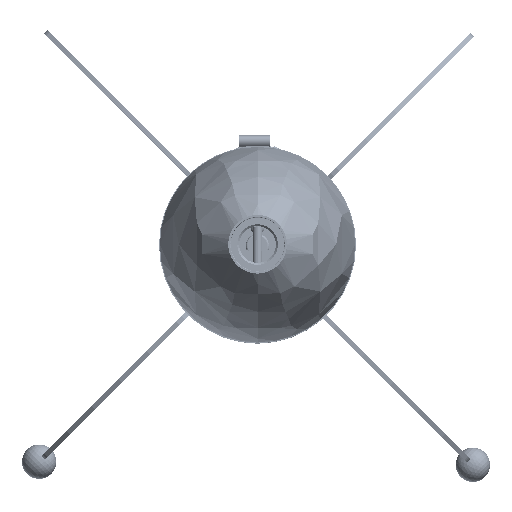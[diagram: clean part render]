
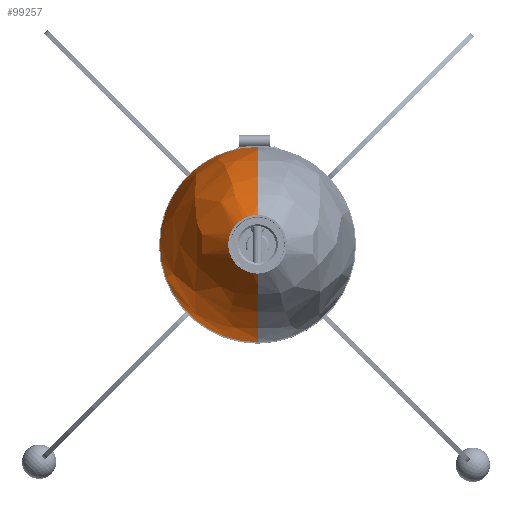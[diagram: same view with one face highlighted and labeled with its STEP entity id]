
A CAD part, top view. The second image highlights one B-rep face of the part: STEP entity #99257.
In plain terms, the highlighted free-form (B-spline) face has degree [2, 3] with [3, 4] control points.
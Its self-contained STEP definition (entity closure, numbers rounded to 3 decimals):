
#420 = EDGE_CURVE ( 'NONE', #83843, #123624, #6204, .T. ) ;
#1627 = AXIS2_PLACEMENT_3D ( 'NONE', #25474, #153951, #43990 ) ;
#3230 = ORIENTED_EDGE ( 'NONE', *, *, #6509, .F. ) ;
#6204 =( BOUNDED_CURVE ( )  B_SPLINE_CURVE ( 2, ( #7951, #155641, #45710 ),
 .UNSPECIFIED., .F., .F. ) 
 B_SPLINE_CURVE_WITH_KNOTS ( ( 3, 3 ),
 ( 0., 1. ),
 .UNSPECIFIED. ) 
 CURVE ( )  GEOMETRIC_REPRESENTATION_ITEM ( )  RATIONAL_B_SPLINE_CURVE ( ( 1., 0.798, 1. ) ) 
 REPRESENTATION_ITEM ( '' )  );
#6509 = EDGE_CURVE ( 'NONE', #45994, #178233, #119484, .T. ) ;
#7951 = CARTESIAN_POINT ( 'NONE',  ( 0., 83.185, 155. ) ) ;
#13855 = CARTESIAN_POINT ( 'NONE',  ( -50., -25., 295. ) ) ;
#21288 = CARTESIAN_POINT ( 'NONE',  ( 0., 0., 295. ) ) ;
#25474 = CARTESIAN_POINT ( 'NONE',  ( 0., 0., 155. ) ) ;
#26059 = CARTESIAN_POINT ( 'NONE',  ( 0., 83.185, 155. ) ) ;
#31584 = CARTESIAN_POINT ( 'NONE',  ( 0., -83.185, 155. ) ) ;
#32377 = CARTESIAN_POINT ( 'NONE',  ( 0., 25., 295. ) ) ;
#38153 = ORIENTED_EDGE ( 'NONE', *, *, #66650, .T. ) ;
#39252 = CARTESIAN_POINT ( 'NONE',  ( 0., 0., 155. ) ) ;
#39772 = DIRECTION ( 'NONE',  ( -1., 0., 0. ) ) ;
#40084 = VERTEX_POINT ( 'NONE', #160410 ) ;
#42323 = EDGE_CURVE ( 'NONE', #178233, #83843, #207950, .T. ) ;
#42783 = EDGE_LOOP ( 'NONE', ( #3230, #236552, #38153, #66848, #54182 ) ) ;
#43990 = DIRECTION ( 'NONE',  ( -1., 0., 0. ) ) ;
#45710 = CARTESIAN_POINT ( 'NONE',  ( 0., 25., 295. ) ) ;
#45851 = EDGE_CURVE ( 'NONE', #45994, #40084, #73799, .T. ) ;
#45994 = VERTEX_POINT ( 'NONE', #207701 ) ;
#50040 = CARTESIAN_POINT ( 'NONE',  ( -166.37, -83.185, 155. ) ) ;
#54182 = ORIENTED_EDGE ( 'NONE', *, *, #42323, .F. ) ;
#57753 = DIRECTION ( 'NONE',  ( -1., 0., 0. ) ) ;
#66650 = EDGE_CURVE ( 'NONE', #40084, #123624, #206099, .T. ) ;
#66848 = ORIENTED_EDGE ( 'NONE', *, *, #420, .F. ) ;
#68491 = CARTESIAN_POINT ( 'NONE',  ( -166.37, 83.185, 155. ) ) ;
#73592 = CARTESIAN_POINT ( 'NONE',  ( 0., -83.185, 155. ) ) ;
#73799 =( BOUNDED_CURVE ( )  B_SPLINE_CURVE ( 2, ( #73592, #183577, #110570 ),
 .UNSPECIFIED., .F., .F. ) 
 B_SPLINE_CURVE_WITH_KNOTS ( ( 3, 3 ),
 ( 0., 1. ),
 .UNSPECIFIED. ) 
 CURVE ( )  GEOMETRIC_REPRESENTATION_ITEM ( )  RATIONAL_B_SPLINE_CURVE ( ( 1., 0.798, 1. ) ) 
 REPRESENTATION_ITEM ( '' )  );
#83843 = VERTEX_POINT ( 'NONE', #26059 ) ;
#86994 = CARTESIAN_POINT ( 'NONE',  ( 0., -83.185, 246.177 ) ) ;
#87205 =( BOUNDED_SURFACE ( )  B_SPLINE_SURFACE ( 2, 3, ( 
 ( #31584, #50040, #68491, #196991 ),
 ( #86994, #215509, #105431, #234006 ),
 ( #123855, #13855, #142273, #32377 ) ),
 .UNSPECIFIED., .F., .F., .F. ) 
 B_SPLINE_SURFACE_WITH_KNOTS ( ( 3, 3 ),
 ( 4, 4 ),
 ( 0., 1. ),
 ( 0., 1. ),
 .UNSPECIFIED. ) 
 GEOMETRIC_REPRESENTATION_ITEM ( )  RATIONAL_B_SPLINE_SURFACE ( (
 ( 1., 0.333, 0.333, 1.),
 ( 0.798, 0.266, 0.266, 0.798),
 ( 1., 0.333, 0.333, 1.) ) ) 
 REPRESENTATION_ITEM ( '' )  SURFACE ( )  );
#99257 = ADVANCED_FACE ( 'NONE', ( #172512 ), #87205, .T. ) ;
#103132 = AXIS2_PLACEMENT_3D ( 'NONE', #39252, #167695, #57753 ) ;
#103181 = CARTESIAN_POINT ( 'NONE',  ( -83.185, 0., 155. ) ) ;
#105431 = CARTESIAN_POINT ( 'NONE',  ( -166.37, 83.185, 246.177 ) ) ;
#110570 = CARTESIAN_POINT ( 'NONE',  ( 0., -25., 295. ) ) ;
#119484 = CIRCLE ( 'NONE', #1627, 83.185 ) ;
#122070 = CARTESIAN_POINT ( 'NONE',  ( 0., 25., 295. ) ) ;
#123624 = VERTEX_POINT ( 'NONE', #122070 ) ;
#123855 = CARTESIAN_POINT ( 'NONE',  ( 0., -25., 295. ) ) ;
#142273 = CARTESIAN_POINT ( 'NONE',  ( -50., 25., 295. ) ) ;
#149700 = DIRECTION ( 'NONE',  ( 0., 0., -1. ) ) ;
#153951 = DIRECTION ( 'NONE',  ( 0., 0., -1. ) ) ;
#155641 = CARTESIAN_POINT ( 'NONE',  ( 0., 83.185, 246.177 ) ) ;
#160410 = CARTESIAN_POINT ( 'NONE',  ( 0., -25., 295. ) ) ;
#167695 = DIRECTION ( 'NONE',  ( 0., 0., -1. ) ) ;
#172512 = FACE_OUTER_BOUND ( 'NONE', #42783, .T. ) ;
#178233 = VERTEX_POINT ( 'NONE', #103181 ) ;
#183577 = CARTESIAN_POINT ( 'NONE',  ( 0., -83.185, 246.177 ) ) ;
#195718 = AXIS2_PLACEMENT_3D ( 'NONE', #21288, #149700, #39772 ) ;
#196991 = CARTESIAN_POINT ( 'NONE',  ( 0., 83.185, 155. ) ) ;
#206099 = CIRCLE ( 'NONE', #195718, 25. ) ;
#207701 = CARTESIAN_POINT ( 'NONE',  ( 0., -83.185, 155. ) ) ;
#207950 = CIRCLE ( 'NONE', #103132, 83.185 ) ;
#215509 = CARTESIAN_POINT ( 'NONE',  ( -166.37, -83.185, 246.177 ) ) ;
#234006 = CARTESIAN_POINT ( 'NONE',  ( 0., 83.185, 246.177 ) ) ;
#236552 = ORIENTED_EDGE ( 'NONE', *, *, #45851, .T. ) ;
